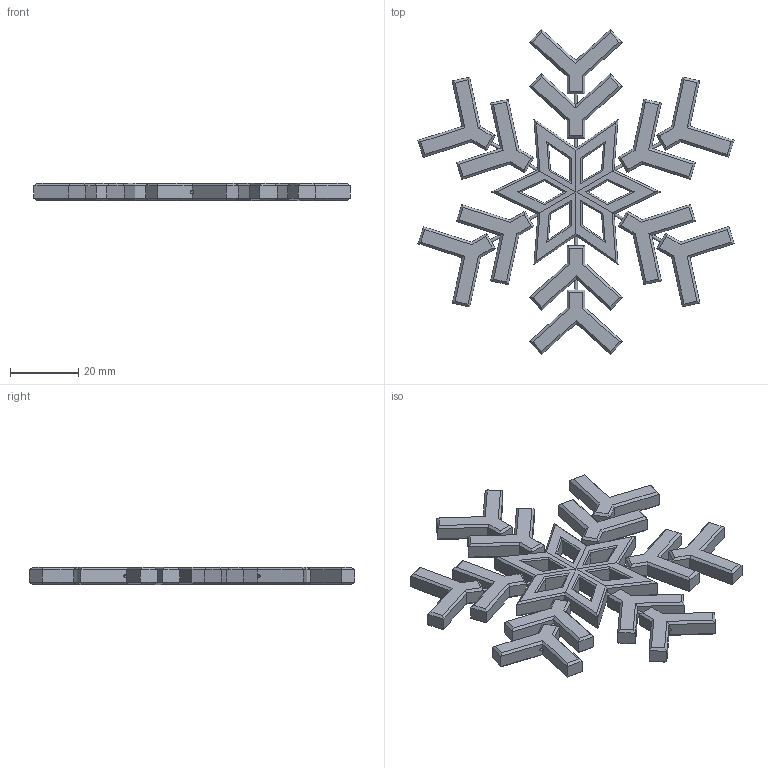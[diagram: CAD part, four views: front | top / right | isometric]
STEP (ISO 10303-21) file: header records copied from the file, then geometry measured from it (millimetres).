
FILE_DESCRIPTION(/* description */ (''),/* implementation_level */ '2;1');
FILE_NAME(/* name */ '눈꽃압~1',/* time_stamp */ '2019-09-18T18:20:19+09:00',/* author */ (''),/* organization */ (''),/* preprocessor_version */ 'ST-DEVELOPER v16.5',/* originating_system */ '',/* authorisation */ '');
FILE_SCHEMA (('AUTOMOTIVE_DESIGN'));
Length unit declared in the file: millimetre
Products named in the file (1): Document
Bounding box: 92.39 x 95.06 x 5.06 mm (x, y, z)
Volume: 14258.4 mm3; surface area: 12300.5 mm2
Topology: 37 solids, 37 shells, 627 faces, 1467 edges, 902 vertices
Faces by surface type: plane 480, bspline 147
Entity records: 19680 total; most frequent: CARTESIAN_POINT 10062, ORIENTED_EDGE 2688, EDGE_CURVE 1344, B_SPLINE_CURVE_WITH_KNOTS 1251, VERTEX_POINT 791, EDGE_LOOP 639, ADVANCED_FACE 627, FACE_OUTER_BOUND 627
